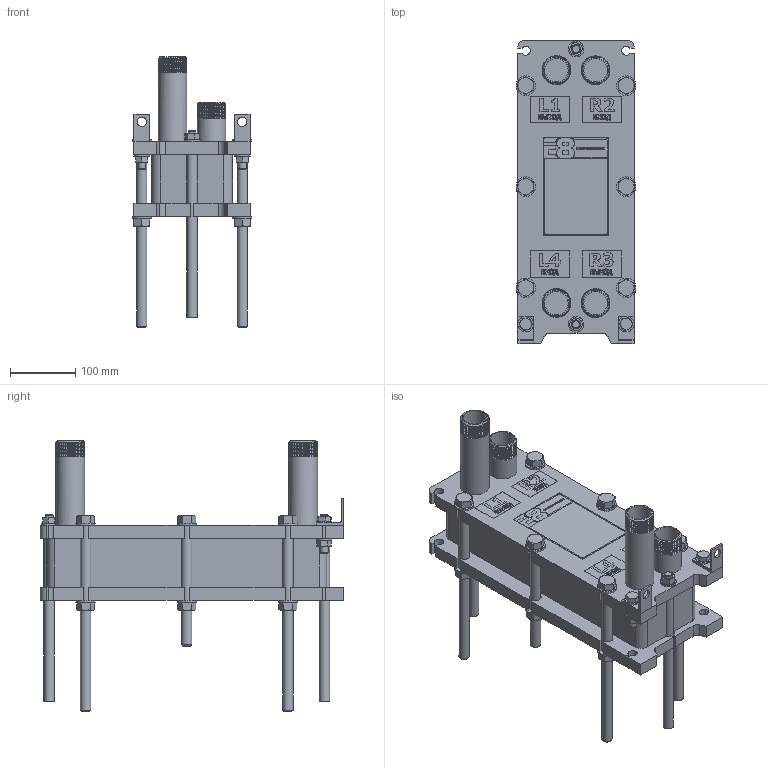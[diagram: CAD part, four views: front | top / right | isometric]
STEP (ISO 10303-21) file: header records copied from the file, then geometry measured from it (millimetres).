
FILE_DESCRIPTION (( 'STEP AP214' ), '1' );
FILE_NAME ('ÏÒ S32 ðåä 4 ñèãìà 51...80.STEP', '2021-04-18T08:55:01', ( '' ), ( '' ), 'SwSTEP 2.0', 'SolidWorks 2018', '' );
FILE_SCHEMA (( 'AUTOMOTIVE_DESIGN' ));
Length unit declared in the file: millimetre
Products named in the file (3): ÏÒ S32 ðåä 4 ñèãìà1; ÏÒ S32 ðåä 4 ñèãìà 51...80; ÏÒ S32 ðåä 4 ñèãìà2 51...80
Assembly tree (2 placements, depth 2):
  ÏÒ S32 ðåä 4 ñèãìà 51...80
    ÏÒ S32 ðåä 4 ñèãìà2 51...80
    ÏÒ S32 ðåä 4 ñèãìà1
Bounding box: 183.89 x 465 x 415 mm (x, y, z)
Volume: 7287226.1 mm3; surface area: 863780.8 mm2
Topology: 13 solids, 13 shells, 1513 faces, 3780 edges, 2442 vertices
Faces by surface type: plane 806, bspline 283, cone 244, cylinder 178, torus 2
Full cylindrical faces by diameter (mm): 12 x8, 13 x8, 14 x4, 16 x14, 17 x12, 24 x6, 30 x12, 36 x4, 44 x44
Entity records: 93792 total; most frequent: CARTESIAN_POINT 45845, ORIENTED_EDGE 7024, DIRECTION 5424, EDGE_CURVE 3512, VERTEX_POINT 2332, VECTOR 2010, LINE 2010, EDGE_LOOP 1756
